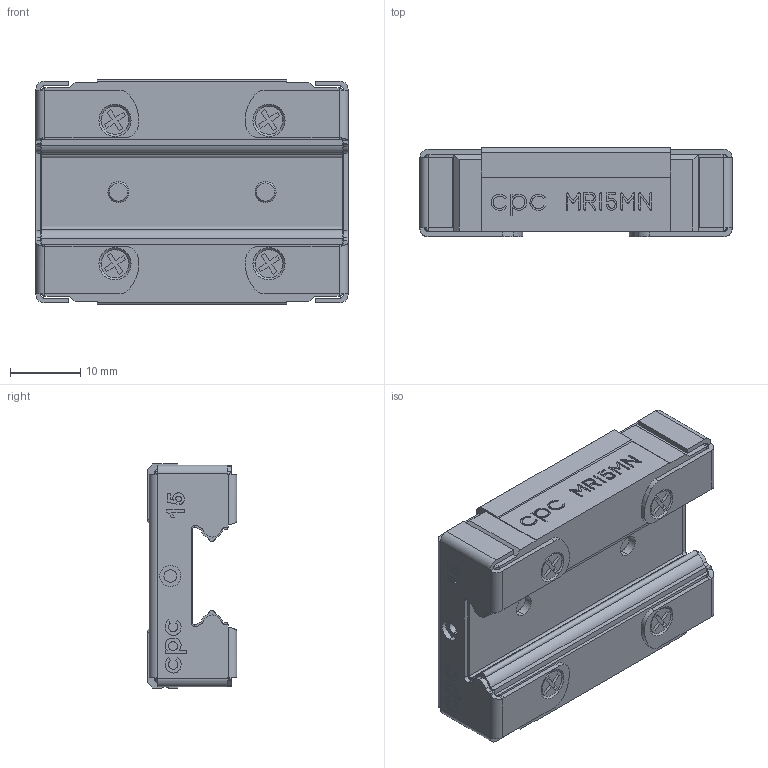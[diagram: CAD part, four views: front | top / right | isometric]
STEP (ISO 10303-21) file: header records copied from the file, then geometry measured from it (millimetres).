
FILE_DESCRIPTION (( 'STEP AP203' ), '1' );
FILE_NAME ('15MN-EE_EZ.STEP', '2009-08-12T01:49:52', ( 'cpc' ), ( '' ), 'SwSTEP 2.0', 'SolidWorks 2007', '' );
FILE_SCHEMA (( 'CONFIG_CONTROL_DESIGN' ));
Products named in the file (5): 15MN-SS_ZZ-block(x1)_預設; MR15M加強片-060923 _預設; 15MN-EE_EZ; 埋頭螺絲M3-2_預設; M2x0.4-screw-2_預設
Assembly tree (9 placements, depth 2):
  15MN-EE_EZ
    M2x0.4-screw-2_預設  x4
    MR15M加強片-060923 _預設  x2
    埋頭螺絲M3-2_預設  x2
    15MN-SS_ZZ-block(x1)_預設
Bounding box: 44.6 x 12.8 x 32 mm (x, y, z)
Volume: 13384.9 mm3; surface area: 9436.3 mm2
Topology: 9 solids, 9 shells, 1096 faces, 2910 edges, 1898 vertices
Faces by surface type: plane 475, bspline 430, cylinder 135, cone 56
Entity records: 39983 total; most frequent: CARTESIAN_POINT 21608, ORIENTED_EDGE 4268, DIRECTION 2564, EDGE_CURVE 2134, VERTEX_POINT 1402, VECTOR 1240, LINE 1240, EDGE_LOOP 868
